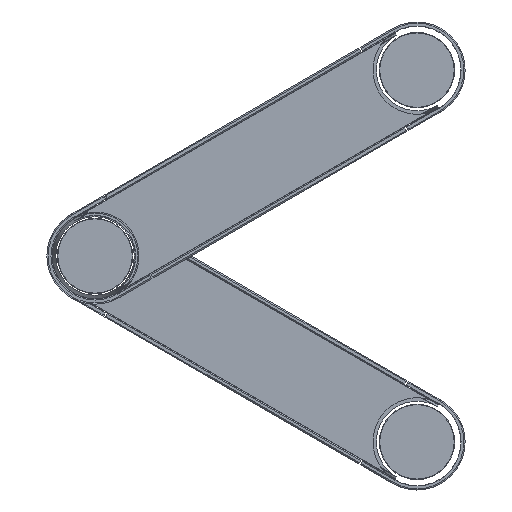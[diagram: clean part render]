
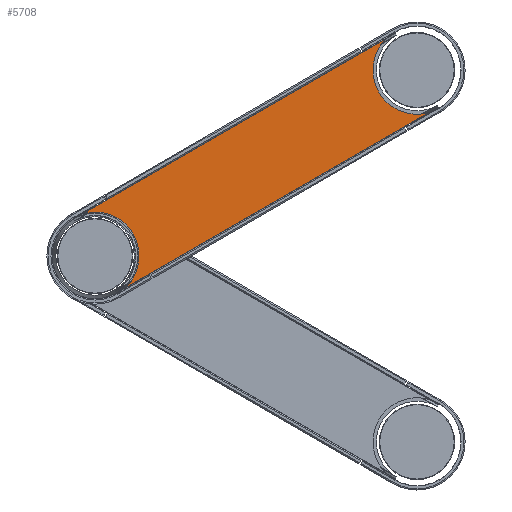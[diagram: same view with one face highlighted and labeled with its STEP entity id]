
A CAD part, front view. The second image highlights one B-rep face of the part: STEP entity #5708.
In plain terms, the highlighted planar face has unit normal (0, -1, 0).
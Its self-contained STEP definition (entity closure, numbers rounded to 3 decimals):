
#822 = ORIENTED_EDGE ( 'NONE', *, *, #8470, .T. ) ;
#1071 = PLANE ( 'NONE',  #6292 ) ;
#2987 = DIRECTION ( 'NONE',  ( 0., -1., 0. ) ) ;
#3358 = EDGE_CURVE ( 'NONE', #11230, #7112, #4782, .T. ) ;
#3579 = EDGE_CURVE ( 'NONE', #21832, #11230, #18174, .T. ) ;
#3965 = ORIENTED_EDGE ( 'NONE', *, *, #21584, .T. ) ;
#4782 = LINE ( 'NONE', #11810, #21410 ) ;
#5708 = ADVANCED_FACE ( 'NONE', ( #5955 ), #1071, .T. ) ;
#5955 = FACE_OUTER_BOUND ( 'NONE', #12560, .T. ) ;
#6080 = LINE ( 'NONE', #14226, #14969 ) ;
#6292 = AXIS2_PLACEMENT_3D ( 'NONE', #9910, #2987, #21666 ) ;
#7112 = VERTEX_POINT ( 'NONE', #17108 ) ;
#8053 = AXIS2_PLACEMENT_3D ( 'NONE', #9882, #13279, #11698 ) ;
#8311 = DIRECTION ( 'NONE',  ( 0., 1., 0. ) ) ;
#8470 = EDGE_CURVE ( 'NONE', #20619, #21832, #6080, .T. ) ;
#9882 = CARTESIAN_POINT ( 'NONE',  ( -85.448, -1559.127, 0. ) ) ;
#9910 = CARTESIAN_POINT ( 'NONE',  ( -85.448, -1559.127, 0. ) ) ;
#11230 = VERTEX_POINT ( 'NONE', #12068 ) ;
#11698 = DIRECTION ( 'NONE',  ( -0.5, 0., 0.866 ) ) ;
#11810 = CARTESIAN_POINT ( 'NONE',  ( 47.597, -1559.127, 57.241 ) ) ;
#12068 = CARTESIAN_POINT ( 'NONE',  ( -73.033, -1559.127, -12.404 ) ) ;
#12560 = EDGE_LOOP ( 'NONE', ( #3965, #822, #17419, #16509 ) ) ;
#12868 = DIRECTION ( 'NONE',  ( -0.866, 0., -0.5 ) ) ;
#13279 = DIRECTION ( 'NONE',  ( 0., 1., 0. ) ) ;
#14226 = CARTESIAN_POINT ( 'NONE',  ( -93.923, -1559.127, 14.679 ) ) ;
#14345 = CIRCLE ( 'NONE', #22270, 17.55 ) ;
#14969 = VECTOR ( 'NONE', #12868, 1000. ) ;
#14984 = DIRECTION ( 'NONE',  ( -0.5, 0., 0.866 ) ) ;
#15097 = CARTESIAN_POINT ( 'NONE',  ( -89.983, -1559.127, 16.954 ) ) ;
#16509 = ORIENTED_EDGE ( 'NONE', *, *, #3358, .T. ) ;
#17108 = CARTESIAN_POINT ( 'NONE',  ( 47.259, -1559.127, 57.046 ) ) ;
#17419 = ORIENTED_EDGE ( 'NONE', *, *, #3579, .T. ) ;
#18174 = CIRCLE ( 'NONE', #8053, 17.55 ) ;
#18602 = CARTESIAN_POINT ( 'NONE',  ( 42.724, -1559.127, 74. ) ) ;
#18810 = DIRECTION ( 'NONE',  ( 0.866, 0., 0.5 ) ) ;
#20619 = VERTEX_POINT ( 'NONE', #21245 ) ;
#21245 = CARTESIAN_POINT ( 'NONE',  ( 30.309, -1559.127, 86.404 ) ) ;
#21410 = VECTOR ( 'NONE', #18810, 1000. ) ;
#21584 = EDGE_CURVE ( 'NONE', #7112, #20619, #14345, .T. ) ;
#21666 = DIRECTION ( 'NONE',  ( 0.5, 0., -0.866 ) ) ;
#21832 = VERTEX_POINT ( 'NONE', #15097 ) ;
#22270 = AXIS2_PLACEMENT_3D ( 'NONE', #18602, #8311, #14984 ) ;
